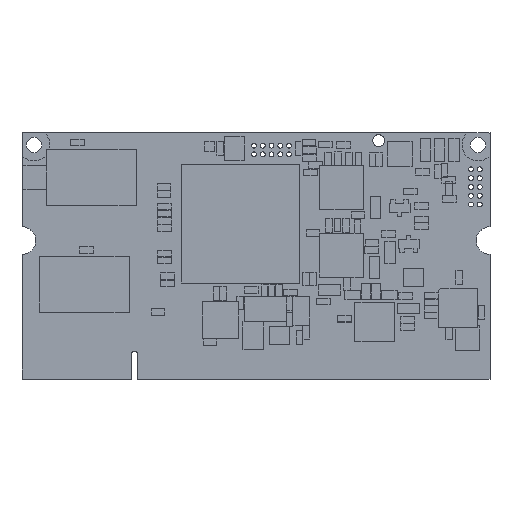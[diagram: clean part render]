
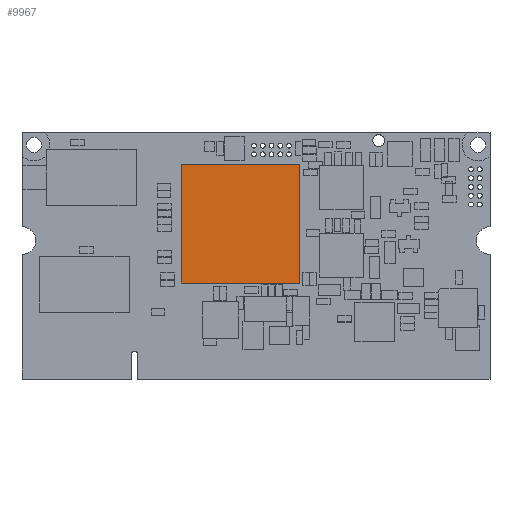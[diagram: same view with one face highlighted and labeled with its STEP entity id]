
A CAD part, top view. The second image highlights one B-rep face of the part: STEP entity #9967.
In plain terms, the highlighted planar face has unit normal (0, 0, 1).
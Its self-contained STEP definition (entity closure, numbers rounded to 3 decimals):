
#4868 = EDGE_LOOP ( 'NONE', ( #12881, #12882, #12883, #12879 ) ) ;
#5375 = DIRECTION ( 'NONE',  ( 0., 0., -1. ) ) ;
#5706 = DIRECTION ( 'NONE',  ( -1., 0., 0. ) ) ;
#5741 = PLANE ( 'NONE',  #38445 ) ;
#5798 = CARTESIAN_POINT ( 'NONE',  ( 40.07, 13.871, 2.772 ) ) ;
#9967 = ADVANCED_FACE ( 'NONE', ( #18487 ), #5741, .F. ) ;
#12879 = ORIENTED_EDGE ( 'NONE', *, *, #13861, .T. ) ;
#12881 = ORIENTED_EDGE ( 'NONE', *, *, #13843, .T. ) ;
#12882 = ORIENTED_EDGE ( 'NONE', *, *, #13851, .T. ) ;
#12883 = ORIENTED_EDGE ( 'NONE', *, *, #13857, .T. ) ;
#13843 = EDGE_CURVE ( 'NONE', #38726, #38769, #19278, .T. ) ;
#13851 = EDGE_CURVE ( 'NONE', #38769, #38674, #19292, .T. ) ;
#13857 = EDGE_CURVE ( 'NONE', #38674, #21317, #19304, .T. ) ;
#13861 = EDGE_CURVE ( 'NONE', #21317, #38726, #19313, .T. ) ;
#18487 = FACE_OUTER_BOUND ( 'NONE', #4868, .T. ) ;
#19278 = LINE ( 'NONE', #22228, #22649 ) ;
#19292 = LINE ( 'NONE', #22244, #22657 ) ;
#19304 = LINE ( 'NONE', #22256, #22663 ) ;
#19313 = LINE ( 'NONE', #22264, #22667 ) ;
#21317 = VERTEX_POINT ( 'NONE', #33424 ) ;
#22228 = CARTESIAN_POINT ( 'NONE',  ( 40.07, 30.965, 2.772 ) ) ;
#22229 = DIRECTION ( 'NONE',  ( 0., 1., 0. ) ) ;
#22244 = CARTESIAN_POINT ( 'NONE',  ( 22.976, 30.965, 2.772 ) ) ;
#22245 = DIRECTION ( 'NONE',  ( -1., 0., 0. ) ) ;
#22256 = CARTESIAN_POINT ( 'NONE',  ( 22.976, 13.871, 2.772 ) ) ;
#22257 = DIRECTION ( 'NONE',  ( 0., -1., 0. ) ) ;
#22264 = CARTESIAN_POINT ( 'NONE',  ( 40.07, 13.871, 2.772 ) ) ;
#22265 = DIRECTION ( 'NONE',  ( 1., 0., 0. ) ) ;
#22649 = VECTOR ( 'NONE', #22229, 1000. ) ;
#22657 = VECTOR ( 'NONE', #22245, 1000. ) ;
#22663 = VECTOR ( 'NONE', #22257, 1000. ) ;
#22667 = VECTOR ( 'NONE', #22265, 1000. ) ;
#33424 = CARTESIAN_POINT ( 'NONE',  ( 22.976, 13.871, 2.772 ) ) ;
#35398 = CARTESIAN_POINT ( 'NONE',  ( 22.976, 30.965, 2.772 ) ) ;
#35450 = CARTESIAN_POINT ( 'NONE',  ( 40.07, 13.871, 2.772 ) ) ;
#35493 = CARTESIAN_POINT ( 'NONE',  ( 40.07, 30.965, 2.772 ) ) ;
#38445 = AXIS2_PLACEMENT_3D ( 'NONE', #5798, #5375, #5706 ) ;
#38674 = VERTEX_POINT ( 'NONE', #35398 ) ;
#38726 = VERTEX_POINT ( 'NONE', #35450 ) ;
#38769 = VERTEX_POINT ( 'NONE', #35493 ) ;
